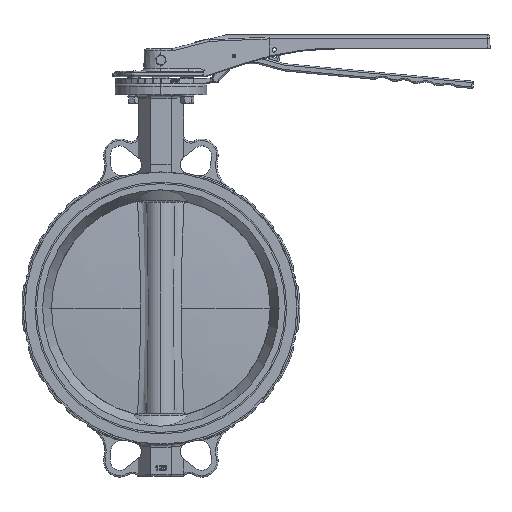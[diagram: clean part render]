
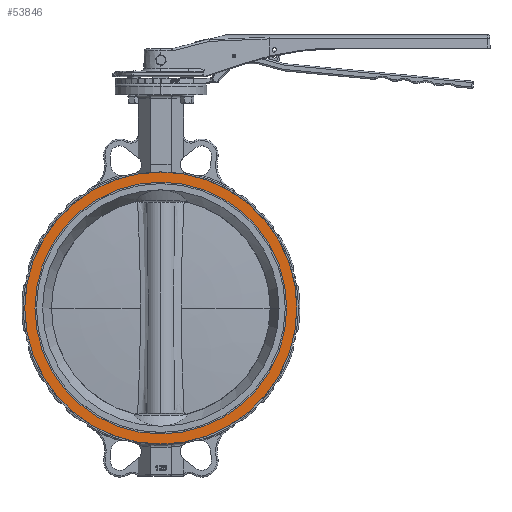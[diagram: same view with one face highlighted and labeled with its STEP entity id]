
A CAD part, top view. The second image highlights one B-rep face of the part: STEP entity #53846.
In plain terms, the highlighted planar face has unit normal (0, 0, 1).
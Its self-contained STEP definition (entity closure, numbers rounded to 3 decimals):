
#424 = CARTESIAN_POINT ( 'NONE',  ( -186., 0., 38.25 ) ) ;
#484 = FACE_BOUND ( 'NONE', #2464, .T. ) ;
#659 = EDGE_CURVE ( 'NONE', #50353, #29717, #17643, .T. ) ;
#1304 = VERTEX_POINT ( 'NONE', #23705 ) ;
#2464 = EDGE_LOOP ( 'NONE', ( #4129, #53469 ) ) ;
#4129 = ORIENTED_EDGE ( 'NONE', *, *, #36432, .F. ) ;
#4718 = EDGE_CURVE ( 'NONE', #52543, #1304, #69055, .T. ) ;
#5985 = CARTESIAN_POINT ( 'NONE',  ( 0., 0., 38.25 ) ) ;
#6101 = EDGE_CURVE ( 'NONE', #1304, #52543, #67983, .T. ) ;
#6260 = ORIENTED_EDGE ( 'NONE', *, *, #4718, .T. ) ;
#6674 = DIRECTION ( 'NONE',  ( 1., 0., 0. ) ) ;
#6956 = DIRECTION ( 'NONE',  ( -1., 0., 0. ) ) ;
#17643 = CIRCLE ( 'NONE', #21491, 172.1 ) ;
#21491 = AXIS2_PLACEMENT_3D ( 'NONE', #70565, #30692, #70798 ) ;
#23575 = PLANE ( 'NONE',  #62537 ) ;
#23626 = DIRECTION ( 'NONE',  ( -1., 0., 0. ) ) ;
#23643 = CIRCLE ( 'NONE', #47534, 172.1 ) ;
#23705 = CARTESIAN_POINT ( 'NONE',  ( 186., 0., 38.25 ) ) ;
#23967 = DIRECTION ( 'NONE',  ( -1., 0., 0. ) ) ;
#27345 = AXIS2_PLACEMENT_3D ( 'NONE', #63076, #63555, #23967 ) ;
#29285 = CARTESIAN_POINT ( 'NONE',  ( -188.232, -188.232, 38.25 ) ) ;
#29717 = VERTEX_POINT ( 'NONE', #51341 ) ;
#30692 = DIRECTION ( 'NONE',  ( 0., 0., 1. ) ) ;
#33598 = ORIENTED_EDGE ( 'NONE', *, *, #6101, .T. ) ;
#35516 = DIRECTION ( 'NONE',  ( 0., 0., 1. ) ) ;
#36432 = EDGE_CURVE ( 'NONE', #29717, #50353, #23643, .T. ) ;
#46929 = AXIS2_PLACEMENT_3D ( 'NONE', #57486, #51983, #6956 ) ;
#47534 = AXIS2_PLACEMENT_3D ( 'NONE', #5985, #63705, #23626 ) ;
#50353 = VERTEX_POINT ( 'NONE', #72443 ) ;
#51341 = CARTESIAN_POINT ( 'NONE',  ( -172.1, 0., 38.25 ) ) ;
#51983 = DIRECTION ( 'NONE',  ( 0., 0., 1. ) ) ;
#52543 = VERTEX_POINT ( 'NONE', #424 ) ;
#53469 = ORIENTED_EDGE ( 'NONE', *, *, #659, .F. ) ;
#53846 = ADVANCED_FACE ( 'NONE', ( #484, #54800 ), #23575, .T. ) ;
#54800 = FACE_OUTER_BOUND ( 'NONE', #57536, .T. ) ;
#57486 = CARTESIAN_POINT ( 'NONE',  ( 0., 0., 38.25 ) ) ;
#57536 = EDGE_LOOP ( 'NONE', ( #6260, #33598 ) ) ;
#62537 = AXIS2_PLACEMENT_3D ( 'NONE', #29285, #35516, #6674 ) ;
#63076 = CARTESIAN_POINT ( 'NONE',  ( 0., 0., 38.25 ) ) ;
#63555 = DIRECTION ( 'NONE',  ( 0., 0., 1. ) ) ;
#63705 = DIRECTION ( 'NONE',  ( 0., 0., 1. ) ) ;
#67983 = CIRCLE ( 'NONE', #46929, 186. ) ;
#69055 = CIRCLE ( 'NONE', #27345, 186. ) ;
#70565 = CARTESIAN_POINT ( 'NONE',  ( 0., 0., 38.25 ) ) ;
#70798 = DIRECTION ( 'NONE',  ( -1., 0., 0. ) ) ;
#72443 = CARTESIAN_POINT ( 'NONE',  ( 172.1, 0., 38.25 ) ) ;
